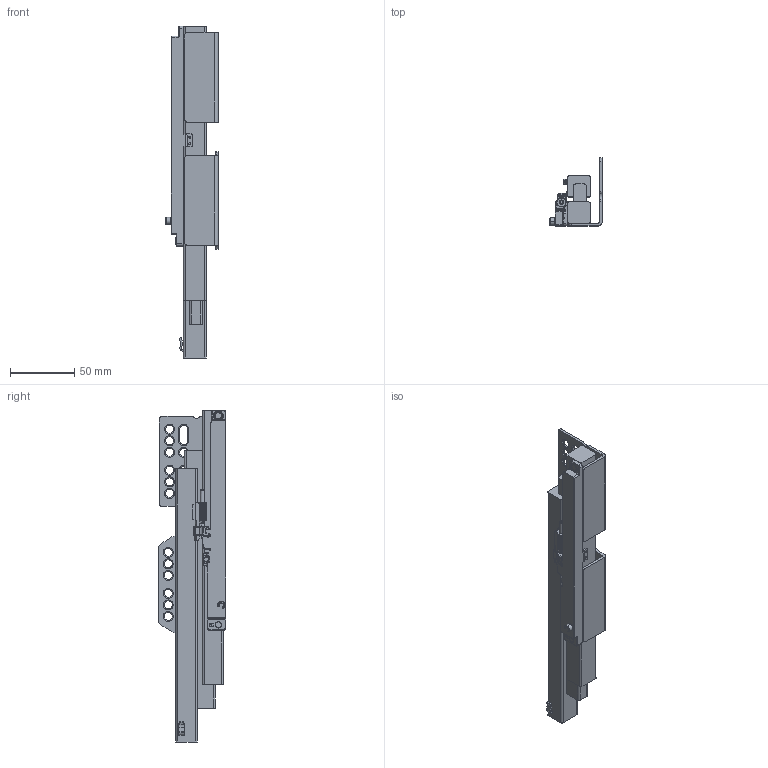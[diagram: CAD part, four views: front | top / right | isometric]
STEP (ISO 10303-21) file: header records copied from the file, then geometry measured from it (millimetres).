
FILE_DESCRIPTION (( 'STEP AP203' ), '1' );
FILE_NAME ('HB012704GX-R(闭合).STEP', '2025-05-13T07:44:06', ( '微软用户' ), ( '微软中国' ), 'SwSTEP 2.0', 'SolidWorks 2021', '' );
FILE_SCHEMA (( 'CONFIG_CONTROL_DESIGN' ));
Products named in the file (4): M覃誹儂凳R; HB412705H-1-R(敕磁); HB012704GX-R(敕磁); 瑰貌寢OFH01-GG-GB.STEP
Assembly tree (3 placements, depth 2):
  HB012704GX-R(敕磁)
    HB412705H-1-R(敕磁)
    瑰貌寢OFH01-GG-GB.STEP
    M覃誹儂凳R
Bounding box: 40.83 x 53 x 258.9 mm (x, y, z)
Volume: 179768.7 mm3; surface area: 56096.1 mm2
Topology: 3 solids, 3 shells, 1194 faces, 3212 edges, 2013 vertices
Faces by surface type: cylinder 489, plane 368, torus 158, bspline 127, cone 44, sphere 8
Entity records: 68425 total; most frequent: CARTESIAN_POINT 39245, ORIENTED_EDGE 6368, DIRECTION 5833, EDGE_CURVE 3184, AXIS2_PLACEMENT_3D 2200, VERTEX_POINT 2011, LINE 1433, VECTOR 1433
